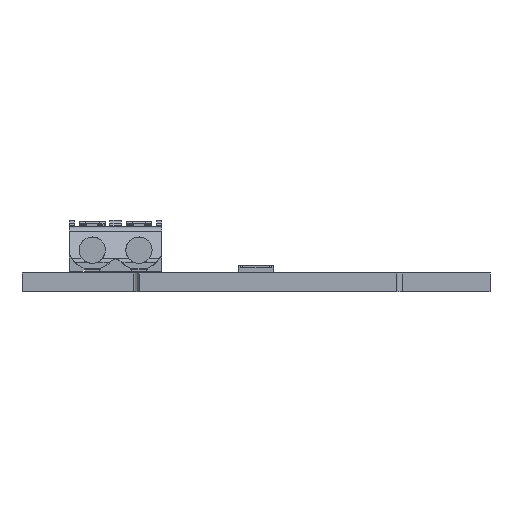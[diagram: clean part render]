
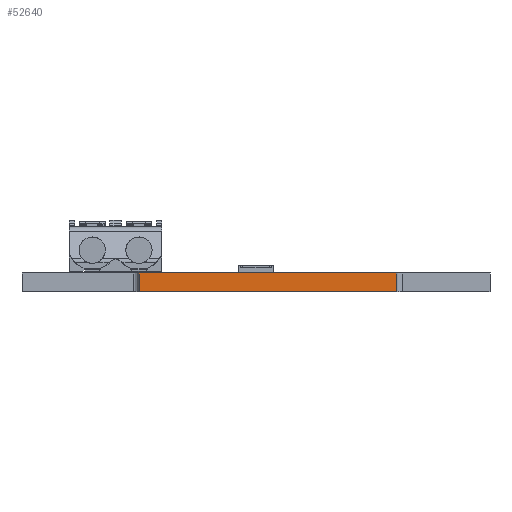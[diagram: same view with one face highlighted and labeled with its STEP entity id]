
A CAD part, left-side view. The second image highlights one B-rep face of the part: STEP entity #52640.
In plain terms, the highlighted planar face has unit normal (-1, 0, 0).
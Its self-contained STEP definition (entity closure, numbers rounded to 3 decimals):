
#5883=FACE_OUTER_BOUND('',#8776,.T.);
#8776=EDGE_LOOP('',(#44230,#44231,#44232,#44233));
#13951=LINE('',#85276,#19238);
#14215=LINE('',#86128,#19502);
#14217=LINE('',#86131,#19504);
#14218=LINE('',#86132,#19505);
#19238=VECTOR('',#70626,10.);
#19502=VECTOR('',#71498,10.);
#19504=VECTOR('',#71502,10.);
#19505=VECTOR('',#71503,10.);
#23825=VERTEX_POINT('',#85273);
#23826=VERTEX_POINT('',#85275);
#24109=VERTEX_POINT('',#86125);
#24110=VERTEX_POINT('',#86127);
#30807=EDGE_CURVE('',#23825,#23826,#13951,.T.);
#31233=EDGE_CURVE('',#24110,#24109,#14215,.T.);
#31235=EDGE_CURVE('',#23825,#24110,#14217,.T.);
#31236=EDGE_CURVE('',#23826,#24109,#14218,.T.);
#44230=ORIENTED_EDGE('',*,*,#31235,.T.);
#44231=ORIENTED_EDGE('',*,*,#31233,.T.);
#44232=ORIENTED_EDGE('',*,*,#31236,.F.);
#44233=ORIENTED_EDGE('',*,*,#30807,.F.);
#47221=PLANE('',#57173);
#52640=ADVANCED_FACE('',(#5883),#47221,.T.);
#57173=AXIS2_PLACEMENT_3D('',#86130,#71500,#71501);
#70626=DIRECTION('',(0.,0.,-1.));
#71498=DIRECTION('',(0.,0.,-1.));
#71500=DIRECTION('center_axis',(-1.,0.,0.));
#71501=DIRECTION('ref_axis',(0.,1.,0.));
#71502=DIRECTION('',(0.,1.,0.));
#71503=DIRECTION('',(0.,1.,0.));
#85273=CARTESIAN_POINT('',(0.,8.,0.));
#85275=CARTESIAN_POINT('',(0.,8.,-1.6));
#85276=CARTESIAN_POINT('',(0.,8.,0.));
#86125=CARTESIAN_POINT('',(0.,30.,-1.6));
#86127=CARTESIAN_POINT('',(0.,30.,0.));
#86128=CARTESIAN_POINT('',(0.,30.,0.));
#86130=CARTESIAN_POINT('Origin',(0.,8.,0.));
#86131=CARTESIAN_POINT('',(0.,8.,0.));
#86132=CARTESIAN_POINT('',(0.,8.,-1.6));
